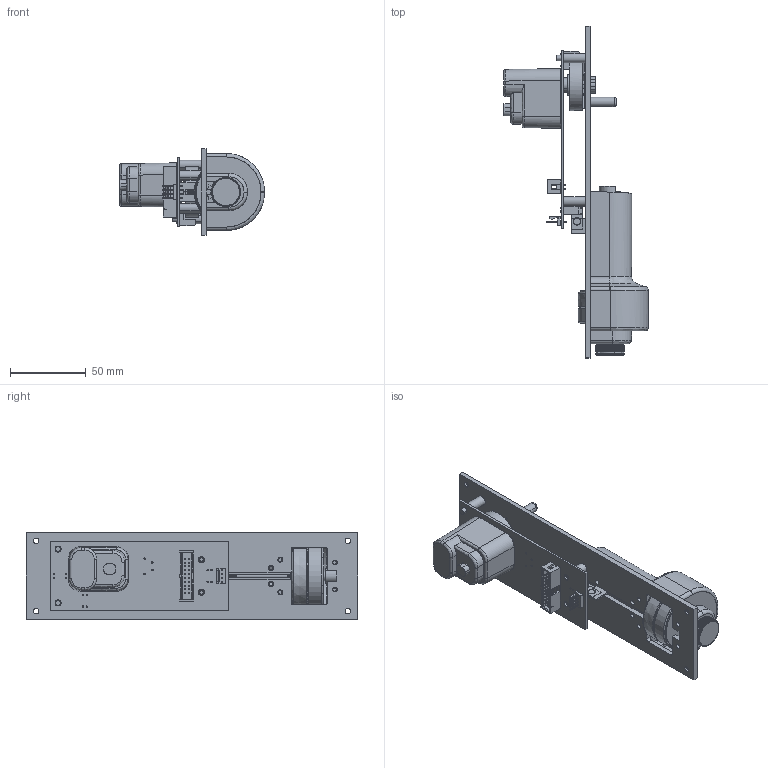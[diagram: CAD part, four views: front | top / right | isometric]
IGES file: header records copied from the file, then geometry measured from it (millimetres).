
Start section: SolidWorks IGES file using analytic representation for surfaces
Global section: file name: C:\SWPDM\GDT\TriContinent\MOD\Assembly Web\MOD91010\MOD91010 RC.IGS; native system: SolidWorks 2017; preprocessor: SolidWorks 2017; author: wlg2015; date: 170614.111033; units: inch
Bounding box: 95.62 x 218.95 x 56.9 mm (x, y, z)
Surface area: 121913.2 mm2 (no closed solid volume)
Topology: 0 solids, 0 shells, 2340 faces, 25863 edges, 25845 vertices
Faces by surface type: bspline 1474, revolution 866
